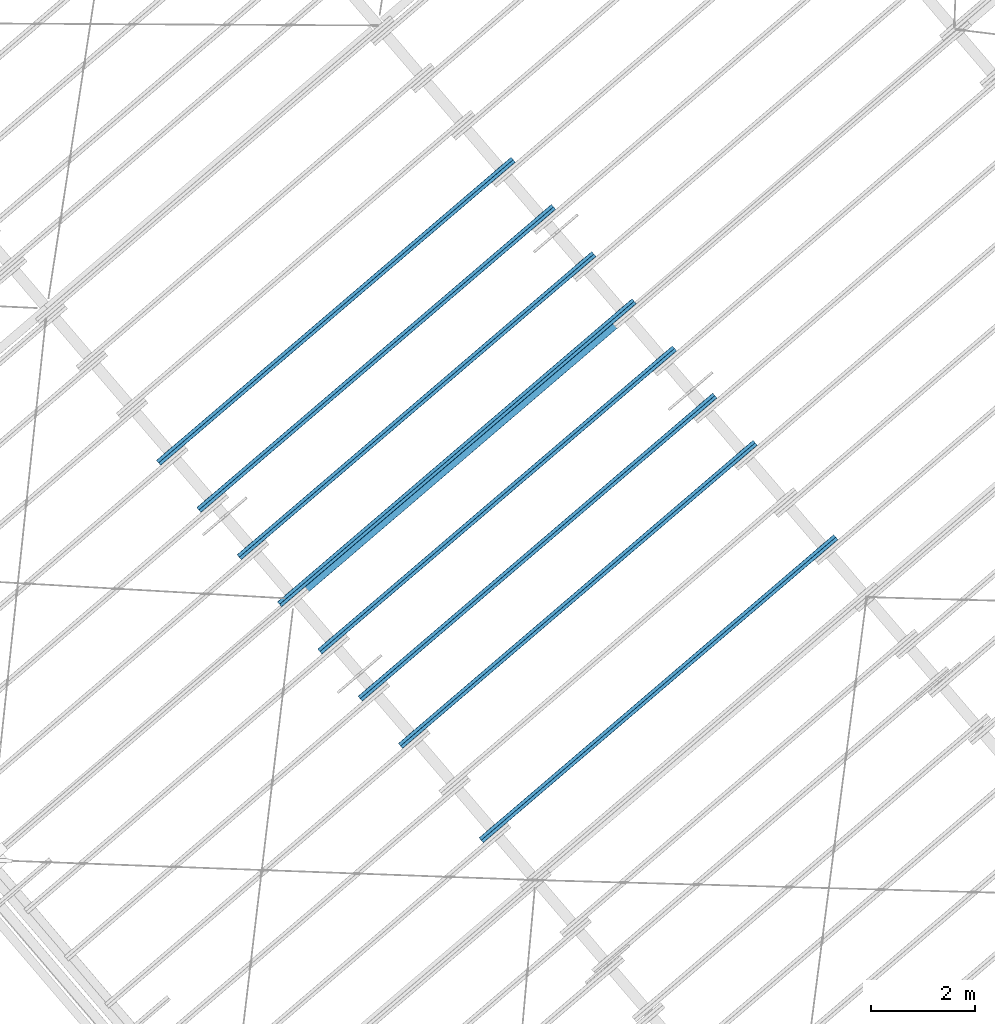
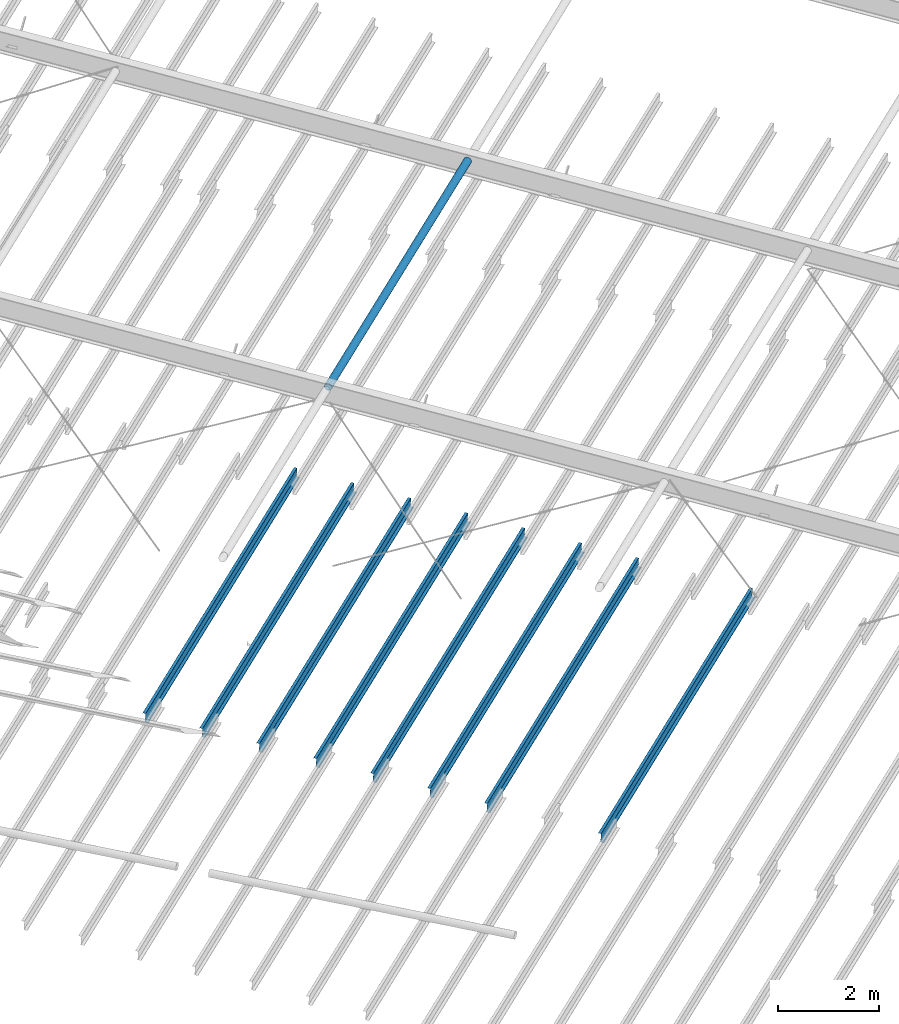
# One storey, part 11 of 25: 9 beams, 1 element without a shape of its own.
"""IFC2X3 building model written with IfcOpenShell, lengths in millimetres."""

from ifc_helpers import new_model, entity, si_unit, converted_unit, derived_unit, direction, frame, frame_2d, origin, origin_2d_with_axis, place, context, subcontext, project, spatial, polyline, circle_curve, parameter, trimmed, segment, composite_curve, hollow_circle, outline, extrude, material, type_object, element, aggregate, save


model = new_model("IFC2X3")

# Units and contexts
model_context = context("Model", 3, precision=0.01, world=origin(), true_north=direction((6.123031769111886e-17, 1.0)))
body_context = subcontext(model_context, "Body", "Model", "MODEL_VIEW")
ifc_project = project(units=[si_unit("LENGTHUNIT", "METRE", prefix="MILLI"), si_unit("AREAUNIT", "SQUARE_METRE"), si_unit("VOLUMEUNIT", "CUBIC_METRE"), converted_unit("PLANEANGLEUNIT", "DEGREE", entity("IfcRatioMeasure", 0.017453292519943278), si_unit("PLANEANGLEUNIT", "RADIAN"), dimensions=[0, 0, 0, 0, 0, 0, 0]), si_unit("MASSUNIT", "GRAM", prefix="KILO"), derived_unit("MASSDENSITYUNIT", [(si_unit("MASSUNIT", "GRAM", prefix="KILO"), 1), (si_unit("LENGTHUNIT", "METRE"), -3)]), derived_unit("MOMENTOFINERTIAUNIT", [(si_unit("LENGTHUNIT", "METRE"), 4)]), si_unit("TIMEUNIT", "SECOND"), si_unit("FREQUENCYUNIT", "HERTZ"), si_unit("THERMODYNAMICTEMPERATUREUNIT", "DEGREE_CELSIUS"), derived_unit("THERMALTRANSMITTANCEUNIT", [(si_unit("MASSUNIT", "GRAM", prefix="KILO"), 1), (si_unit("THERMODYNAMICTEMPERATUREUNIT", "KELVIN"), -1), (si_unit("TIMEUNIT", "SECOND"), -3)]), derived_unit("VOLUMETRICFLOWRATEUNIT", [(si_unit("LENGTHUNIT", "METRE"), 3), (si_unit("TIMEUNIT", "SECOND"), -1)]), derived_unit("MASSFLOWRATEUNIT", [(si_unit("MASSUNIT", "GRAM", prefix="KILO"), 1), (si_unit("TIMEUNIT", "SECOND"), -1)]), derived_unit("ROTATIONALFREQUENCYUNIT", [(si_unit("TIMEUNIT", "SECOND"), -1)]), si_unit("ELECTRICCURRENTUNIT", "AMPERE"), si_unit("ELECTRICVOLTAGEUNIT", "VOLT"), si_unit("POWERUNIT", "WATT"), si_unit("FORCEUNIT", "NEWTON", prefix="KILO"), si_unit("ILLUMINANCEUNIT", "LUX"), si_unit("LUMINOUSFLUXUNIT", "LUMEN"), si_unit("LUMINOUSINTENSITYUNIT", "CANDELA"), derived_unit("USERDEFINED", [(si_unit("MASSUNIT", "GRAM", prefix="KILO"), -1), (si_unit("LENGTHUNIT", "METRE"), -2), (si_unit("TIMEUNIT", "SECOND"), 3), (si_unit("LUMINOUSFLUXUNIT", "LUMEN"), 1)]), derived_unit("SOUNDPOWERUNIT", [(si_unit("MASSUNIT", "GRAM", prefix="KILO"), 1), (si_unit("LENGTHUNIT", "METRE"), 2), (si_unit("TIMEUNIT", "SECOND"), -3)]), derived_unit("LINEARVELOCITYUNIT", [(si_unit("LENGTHUNIT", "METRE"), 1), (si_unit("TIMEUNIT", "SECOND"), -1)]), si_unit("PRESSUREUNIT", "PASCAL"), derived_unit("USERDEFINED", [(si_unit("LENGTHUNIT", "METRE"), -2), (si_unit("MASSUNIT", "GRAM", prefix="KILO"), 1), (si_unit("TIMEUNIT", "SECOND"), -2)]), derived_unit("LINEARFORCEUNIT", [(si_unit("MASSUNIT", "GRAM", prefix="KILO"), 1), (si_unit("LENGTHUNIT", "METRE"), 1), (si_unit("TIMEUNIT", "SECOND"), -2), (si_unit("LENGTHUNIT", "METRE"), -1)]), derived_unit("PLANARFORCEUNIT", [(si_unit("MASSUNIT", "GRAM", prefix="KILO"), 1), (si_unit("LENGTHUNIT", "METRE"), 1), (si_unit("TIMEUNIT", "SECOND"), -2), (si_unit("LENGTHUNIT", "METRE"), -2)])], contexts=[model_context])

# Site, building, storey
site_placement = place(None, frame((962.4174930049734, -6014.433753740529, 0.0), z_axis=(0.0, 0.0, 1.0), x_axis=(0.7601792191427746, 0.649713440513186, 0.0)))
site = spatial("IfcSite", under=ifc_project, at=site_placement, Name="Default", CompositionType="ELEMENT")
building_placement = place(site_placement, origin())
building = spatial("IfcBuilding", under=site, at=building_placement, CompositionType="ELEMENT")
storey_placement = place(building_placement, frame((0.0, 0.0, 9200.0)))
storey = spatial("IfcBuildingStorey", under=building, at=storey_placement, Name="TOP OF CEILING", CompositionType="ELEMENT", Elevation=9200.000000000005)

# Beam
ifc_material_1 = material(Name="Metal - Steel - 300 MPa")
beam_type_1 = type_object("IfcBeamType", Name="ADSK_AU_CHS-Circular Hollow Sections (AS 1163_C350):168.3x6.4CHS", PredefinedType="NOTDEFINED")
beam_1_placement = place(storey_placement, frame((170718.36115848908, -11221.928082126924, 3047.4), z_axis=(-1.615773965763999e-06, 0.0, 1.0), x_axis=(-1.0, 0.0, -1.615773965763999e-06)))
element("IfcBeam", 1, at=beam_1_placement, inside=storey, type_object=beam_type_1, material=ifc_material_1, Name="ADSK_AU_CHS-Circular Hollow Sections (AS 1163_C350):168.3x6.4CHS", ObjectType="ADSK_AU_CHS-Circular Hollow Sections (AS 1163_C350):168.3x6.4CHS", context=body_context, shape_type="SweptSolid", body=[
    extrude(hollow_circle(Radius=84.15000000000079, WallThickness=6.4000000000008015, at=origin_2d_with_axis()), frame((-15.47869166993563, 0.0, -84.15000000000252), z_axis=(1.0, 0.0, 0.0), x_axis=(0.0, 1.0, 0.0)), (0.0, 0.0, 1.0), 8290.385096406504),
])

# Assembly, beams
assembly_placement = place(storey_placement, origin())
assembly = element("IfcElementAssembly", 2, at=assembly_placement, inside=storey, Name="Structural Beam System:Structural Beam System 1", ObjectType="Structural Beam System:Structural Beam System 1", AssemblyPlace="NOTDEFINED", PredefinedType="BEAM_GRID")
ifc_material_2 = material(Name="Metal - Steel - 345 MPa")
beam_type_2 = type_object("IfcBeamType", Name="ADSK_AU_Light Gauge-Zeds:Z20015", PredefinedType="NOTDEFINED")
beam_2_placement = place(building_placement, frame((171038.96020471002, -7529.671038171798, 3663.4824984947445), z_axis=(0.0, 0.0, 1.0), x_axis=(-1.0, 0.0, 0.0)))
beam_2 = element("IfcBeam", 3, at=beam_2_placement, type_object=beam_type_2, material=ifc_material_2, Name="ADSK_AU_Light Gauge-Zeds:Z20015", ObjectType="ADSK_AU_Light Gauge-Zeds:Z20015", context=body_context, shape_type="SweptSolid", body=[
    extrude(outline(composite_curve([segment(polyline([(100.0, 1.0), (100.0, -69.0)]), True, "CONTINUOUS"), segment(trimmed(circle_curve(frame_2d((98.0, -69.0), x_axis=(0.0, -1.0)), 2.000000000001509), [parameter(0.0)], [parameter(89.99999999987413)], True, "PARAMETER"), False, "CONTINUOUS"), segment(polyline([(98.0, -71.0), (81.49999999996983, -71.0)]), True, "CONTINUOUS"), segment(polyline([(81.49999999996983, -71.0), (81.49999999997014, -72.50000000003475)]), True, "CONTINUOUS"), segment(polyline([(81.49999999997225, -72.500000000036), (98.0, -72.50000000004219)]), True, "CONTINUOUS"), segment(trimmed(circle_curve(frame_2d((98.0, -69.0), x_axis=(1.0, 0.0)), 3.5000000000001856), [parameter(270.0000000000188)], [parameter(0.0)], True, "PARAMETER"), True, "CONTINUOUS"), segment(polyline([(101.49999999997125, -69.0), (101.50000000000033, 1.0)]), True, "CONTINUOUS"), segment(trimmed(circle_curve(frame_2d((98.0, 1.0), x_axis=(0.0, 1.0)), 3.5000000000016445), [parameter(269.9999999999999)], [parameter(0.0)], True, "PARAMETER"), True, "CONTINUOUS"), segment(polyline([(98.0, 4.499999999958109), (-98.0, 4.500000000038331)]), True, "CONTINUOUS"), segment(trimmed(circle_curve(frame_2d((-98.0, 6.500000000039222), x_axis=(-1.0, 0.0)), 2.000000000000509), [parameter(0.0)], [parameter(89.99999999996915)], True, "PARAMETER"), False, "CONTINUOUS"), segment(polyline([(-100.0, 6.500000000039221), (-100.0, 64.0)]), True, "CONTINUOUS"), segment(trimmed(circle_curve(frame_2d((-98.0, 64.0), x_axis=(0.0, 1.0)), 2.000000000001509), [parameter(0.0)], [parameter(89.99999999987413)], True, "PARAMETER"), False, "CONTINUOUS"), segment(polyline([(-98.0, 66.0), (-81.4999999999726, 66.0)]), True, "CONTINUOUS"), segment(polyline([(-81.4999999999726, 66.0), (-81.49999999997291, 67.50000000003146)]), True, "CONTINUOUS"), segment(polyline([(-81.49999999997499, 67.5000000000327), (-98.0, 67.50000000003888)]), True, "CONTINUOUS"), segment(trimmed(circle_curve(frame_2d((-98.0, 64.0), x_axis=(-1.0, 0.0)), 3.5000000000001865), [parameter(270.0000000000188)], [parameter(0.0)], True, "PARAMETER"), True, "CONTINUOUS"), segment(polyline([(-101.49999999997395, 64.0), (-101.49999999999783, 6.500000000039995)]), True, "CONTINUOUS"), segment(trimmed(circle_curve(frame_2d((-98.0, 6.500000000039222), x_axis=(0.0, -1.0)), 3.500000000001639), [parameter(269.9999999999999)], [parameter(0.0)], True, "PARAMETER"), True, "CONTINUOUS"), segment(polyline([(-98.0, 3.0), (98.0, 3.0)]), True, "CONTINUOUS"), segment(trimmed(circle_curve(frame_2d((98.0, 1.0), x_axis=(1.0, 0.0)), 2.000000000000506), [parameter(0.0)], [parameter(89.99999999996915)], True, "PARAMETER"), False, "CONTINUOUS")], self_intersect=False)), frame((0.20000000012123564, -2.5912438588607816, -101.56665523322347), z_axis=(-1.0, 0.0, 0.0), x_axis=(0.0, -0.06975647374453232, -0.9975640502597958)), (0.0, 0.0, -1.0), 9000.000000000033),
])
beam_3_placement = place(building_placement, frame((171038.96020471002, -8726.747898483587, 3579.7747300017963), z_axis=(0.0, 0.0, 1.0), x_axis=(-1.0, 0.0, 0.0)))
beam_3 = element("IfcBeam", 4, at=beam_3_placement, type_object=beam_type_2, material=ifc_material_2, Name="ADSK_AU_Light Gauge-Zeds:Z20015", ObjectType="ADSK_AU_Light Gauge-Zeds:Z20015", context=body_context, shape_type="SweptSolid", body=[
    extrude(outline(composite_curve([segment(polyline([(100.0, 1.0), (100.0, -69.0)]), True, "CONTINUOUS"), segment(trimmed(circle_curve(frame_2d((98.0, -69.0), x_axis=(0.0, -1.0)), 2.000000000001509), [parameter(0.0)], [parameter(89.99999999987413)], True, "PARAMETER"), False, "CONTINUOUS"), segment(polyline([(98.0, -71.0), (81.49999999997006, -71.0)]), True, "CONTINUOUS"), segment(polyline([(81.49999999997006, -71.0), (81.49999999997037, -72.50000000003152)]), True, "CONTINUOUS"), segment(polyline([(81.49999999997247, -72.50000000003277), (98.0, -72.50000000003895)]), True, "CONTINUOUS"), segment(trimmed(circle_curve(frame_2d((98.0, -69.0), x_axis=(1.0, 0.0)), 3.5000000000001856), [parameter(270.0000000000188)], [parameter(0.0)], True, "PARAMETER"), True, "CONTINUOUS"), segment(polyline([(101.49999999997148, -69.0), (101.50000000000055, 1.0)]), True, "CONTINUOUS"), segment(trimmed(circle_curve(frame_2d((98.0, 1.0), x_axis=(0.0, 1.0)), 3.5000000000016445), [parameter(269.9999999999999)], [parameter(0.0)], True, "PARAMETER"), True, "CONTINUOUS"), segment(polyline([(98.0, 4.499999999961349), (-98.0, 4.500000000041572)]), True, "CONTINUOUS"), segment(trimmed(circle_curve(frame_2d((-98.0, 6.500000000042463), x_axis=(-1.0, 0.0)), 2.000000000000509), [parameter(0.0)], [parameter(89.99999999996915)], True, "PARAMETER"), False, "CONTINUOUS"), segment(polyline([(-100.0, 6.500000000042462), (-100.0, 64.0)]), True, "CONTINUOUS"), segment(trimmed(circle_curve(frame_2d((-98.0, 64.0), x_axis=(0.0, 1.0)), 2.000000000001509), [parameter(0.0)], [parameter(89.99999999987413)], True, "PARAMETER"), False, "CONTINUOUS"), segment(polyline([(-98.0, 66.0), (-81.49999999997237, 66.0)]), True, "CONTINUOUS"), segment(polyline([(-81.49999999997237, 66.0), (-81.4999999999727, 67.5000000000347)]), True, "CONTINUOUS"), segment(polyline([(-81.49999999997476, 67.50000000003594), (-98.0, 67.50000000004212)]), True, "CONTINUOUS"), segment(trimmed(circle_curve(frame_2d((-98.0, 64.0), x_axis=(-1.0, 0.0)), 3.5000000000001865), [parameter(270.0000000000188)], [parameter(0.0)], True, "PARAMETER"), True, "CONTINUOUS"), segment(polyline([(-101.49999999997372, 64.0), (-101.4999999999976, 6.500000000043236)]), True, "CONTINUOUS"), segment(trimmed(circle_curve(frame_2d((-98.0, 6.500000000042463), x_axis=(0.0, -1.0)), 3.500000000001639), [parameter(269.9999999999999)], [parameter(0.0)], True, "PARAMETER"), True, "CONTINUOUS"), segment(polyline([(-98.0, 3.0), (98.0, 3.0)]), True, "CONTINUOUS"), segment(trimmed(circle_curve(frame_2d((98.0, 1.0), x_axis=(1.0, 0.0)), 2.000000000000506), [parameter(0.0)], [parameter(89.99999999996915)], True, "PARAMETER"), False, "CONTINUOUS")], self_intersect=False)), frame((0.20000000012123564, -2.5912438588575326, -101.56665523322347), z_axis=(-1.0, 0.0, 0.0), x_axis=(0.0, -0.06975647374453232, -0.9975640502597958)), (0.0, 0.0, -1.0), 9000.000000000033),
])
beam_4_placement = place(building_placement, frame((171038.96020471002, -9923.824758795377, 3496.0669615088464), z_axis=(0.0, 0.0, 1.0), x_axis=(-1.0, 0.0, 0.0)))
beam_4 = element("IfcBeam", 5, at=beam_4_placement, type_object=beam_type_2, material=ifc_material_2, Name="ADSK_AU_Light Gauge-Zeds:Z20015", ObjectType="ADSK_AU_Light Gauge-Zeds:Z20015", context=body_context, shape_type="SweptSolid", body=[
    extrude(outline(composite_curve([segment(polyline([(100.0, 1.0), (100.0, -69.0)]), True, "CONTINUOUS"), segment(trimmed(circle_curve(frame_2d((98.0, -69.0), x_axis=(0.0, -1.0)), 2.000000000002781), [parameter(0.0)], [parameter(89.99999999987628)], True, "PARAMETER"), False, "CONTINUOUS"), segment(polyline([(98.0, -71.0), (81.49999999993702, -71.0)]), True, "CONTINUOUS"), segment(polyline([(81.49999999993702, -71.0), (81.49999999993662, -72.50000000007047)]), True, "CONTINUOUS"), segment(polyline([(81.49999999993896, -72.50000000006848), (98.0, -72.5000000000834)]), True, "CONTINUOUS"), segment(trimmed(circle_curve(frame_2d((98.0, -69.0), x_axis=(1.0, 0.0)), 3.5000000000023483), [parameter(270.00000000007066)], [parameter(0.0)], True, "PARAMETER"), True, "CONTINUOUS"), segment(polyline([(101.49999999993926, -69.0), (101.50000000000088, 1.0)]), True, "CONTINUOUS"), segment(trimmed(circle_curve(frame_2d((98.0, 1.0), x_axis=(0.0, 1.0)), 3.500000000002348), [parameter(270.00000000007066)], [parameter(0.0)], True, "PARAMETER"), True, "CONTINUOUS"), segment(polyline([(98.0, 4.49999999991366), (-98.0, 4.500000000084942)]), True, "CONTINUOUS"), segment(trimmed(circle_curve(frame_2d((-98.0, 6.500000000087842), x_axis=(-1.0, 0.0)), 2.0000000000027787), [parameter(0.0)], [parameter(89.99999999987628)], True, "PARAMETER"), False, "CONTINUOUS"), segment(polyline([(-100.0, 6.500000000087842), (-100.0, 64.0)]), True, "CONTINUOUS"), segment(trimmed(circle_curve(frame_2d((-98.0, 64.0), x_axis=(0.0, 1.0)), 2.000000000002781), [parameter(0.0)], [parameter(89.99999999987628)], True, "PARAMETER"), False, "CONTINUOUS"), segment(polyline([(-98.0, 66.0), (-81.49999999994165, 66.0)]), True, "CONTINUOUS"), segment(polyline([(-81.4999999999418, 66.0), (-81.49999999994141, 67.5000000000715)]), True, "CONTINUOUS"), segment(polyline([(-81.49999999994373, 67.50000000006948), (-98.0, 67.50000000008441)]), True, "CONTINUOUS"), segment(trimmed(circle_curve(frame_2d((-98.0, 64.0), x_axis=(-1.0, 0.0)), 3.500000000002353), [parameter(270.00000000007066)], [parameter(0.0)], True, "PARAMETER"), True, "CONTINUOUS"), segment(polyline([(-101.49999999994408, 64.0), (-101.4999999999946, 6.500000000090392)]), True, "CONTINUOUS"), segment(trimmed(circle_curve(frame_2d((-98.0, 6.500000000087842), x_axis=(0.0, -1.0)), 3.5000000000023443), [parameter(270.00000000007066)], [parameter(0.0)], True, "PARAMETER"), True, "CONTINUOUS"), segment(polyline([(-98.0, 3.0), (98.0, 3.0)]), True, "CONTINUOUS"), segment(trimmed(circle_curve(frame_2d((98.0, 1.0), x_axis=(1.0, 0.0)), 2.000000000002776), [parameter(0.0)], [parameter(89.99999999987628)], True, "PARAMETER"), False, "CONTINUOUS")], self_intersect=False)), frame((0.20000000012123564, -2.5912438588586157, -101.56665523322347), z_axis=(-1.0, 0.0, 0.0), x_axis=(0.0, -0.06975647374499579, -0.9975640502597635)), (0.0, 0.0, -1.0), 9000.000000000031),
])
beam_5_placement = place(building_placement, frame((171038.96020471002, -11120.901619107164, 3412.3591930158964), z_axis=(0.0, 0.0, 1.0), x_axis=(-1.0, 0.0, 0.0)))
beam_5 = element("IfcBeam", 6, at=beam_5_placement, type_object=beam_type_2, material=ifc_material_2, Name="ADSK_AU_Light Gauge-Zeds:Z20015", ObjectType="ADSK_AU_Light Gauge-Zeds:Z20015", context=body_context, shape_type="SweptSolid", body=[
    extrude(outline(composite_curve([segment(polyline([(100.0, 1.0), (100.0, -69.0)]), True, "CONTINUOUS"), segment(trimmed(circle_curve(frame_2d((98.0, -69.0), x_axis=(0.0, -1.0)), 2.000000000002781), [parameter(0.0)], [parameter(89.99999999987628)], True, "PARAMETER"), False, "CONTINUOUS"), segment(polyline([(98.0, -71.0), (81.49999999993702, -71.0)]), True, "CONTINUOUS"), segment(polyline([(81.49999999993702, -71.0), (81.49999999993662, -72.50000000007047)]), True, "CONTINUOUS"), segment(polyline([(81.49999999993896, -72.50000000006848), (98.0, -72.5000000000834)]), True, "CONTINUOUS"), segment(trimmed(circle_curve(frame_2d((98.0, -69.0), x_axis=(1.0, 0.0)), 3.5000000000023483), [parameter(270.00000000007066)], [parameter(0.0)], True, "PARAMETER"), True, "CONTINUOUS"), segment(polyline([(101.49999999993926, -69.0), (101.50000000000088, 1.0)]), True, "CONTINUOUS"), segment(trimmed(circle_curve(frame_2d((98.0, 1.0), x_axis=(0.0, 1.0)), 3.500000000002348), [parameter(270.00000000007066)], [parameter(0.0)], True, "PARAMETER"), True, "CONTINUOUS"), segment(polyline([(98.0, 4.49999999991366), (-98.0, 4.500000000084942)]), True, "CONTINUOUS"), segment(trimmed(circle_curve(frame_2d((-98.0, 6.500000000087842), x_axis=(-1.0, 0.0)), 2.0000000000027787), [parameter(0.0)], [parameter(89.99999999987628)], True, "PARAMETER"), False, "CONTINUOUS"), segment(polyline([(-100.0, 6.500000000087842), (-100.0, 64.0)]), True, "CONTINUOUS"), segment(trimmed(circle_curve(frame_2d((-98.0, 64.0), x_axis=(0.0, 1.0)), 2.000000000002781), [parameter(0.0)], [parameter(89.99999999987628)], True, "PARAMETER"), False, "CONTINUOUS"), segment(polyline([(-98.0, 66.0), (-81.49999999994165, 66.0)]), True, "CONTINUOUS"), segment(polyline([(-81.4999999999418, 66.0), (-81.49999999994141, 67.5000000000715)]), True, "CONTINUOUS"), segment(polyline([(-81.49999999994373, 67.50000000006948), (-98.0, 67.50000000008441)]), True, "CONTINUOUS"), segment(trimmed(circle_curve(frame_2d((-98.0, 64.0), x_axis=(-1.0, 0.0)), 3.500000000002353), [parameter(270.00000000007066)], [parameter(0.0)], True, "PARAMETER"), True, "CONTINUOUS"), segment(polyline([(-101.49999999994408, 64.0), (-101.4999999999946, 6.500000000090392)]), True, "CONTINUOUS"), segment(trimmed(circle_curve(frame_2d((-98.0, 6.500000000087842), x_axis=(0.0, -1.0)), 3.5000000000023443), [parameter(270.00000000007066)], [parameter(0.0)], True, "PARAMETER"), True, "CONTINUOUS"), segment(polyline([(-98.0, 3.0), (98.0, 3.0)]), True, "CONTINUOUS"), segment(trimmed(circle_curve(frame_2d((98.0, 1.0), x_axis=(1.0, 0.0)), 2.000000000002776), [parameter(0.0)], [parameter(89.99999999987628)], True, "PARAMETER"), False, "CONTINUOUS")], self_intersect=False)), frame((0.20000000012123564, -2.5912438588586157, -101.56665523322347), z_axis=(-1.0, 0.0, 0.0), x_axis=(0.0, -0.06975647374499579, -0.9975640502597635)), (0.0, 0.0, -1.0), 9000.000000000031),
])
beam_6_placement = place(building_placement, frame((171038.96020471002, -12317.978479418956, 3328.6514245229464), z_axis=(0.0, 0.0, 1.0), x_axis=(-1.0, 0.0, 0.0)))
beam_6 = element("IfcBeam", 7, at=beam_6_placement, type_object=beam_type_2, material=ifc_material_2, Name="ADSK_AU_Light Gauge-Zeds:Z20015", ObjectType="ADSK_AU_Light Gauge-Zeds:Z20015", context=body_context, shape_type="SweptSolid", body=[
    extrude(outline(composite_curve([segment(polyline([(100.0, 1.0), (100.0, -69.0)]), True, "CONTINUOUS"), segment(trimmed(circle_curve(frame_2d((98.0, -69.0), x_axis=(0.0, -1.0)), 2.000000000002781), [parameter(0.0)], [parameter(89.99999999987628)], True, "PARAMETER"), False, "CONTINUOUS"), segment(polyline([(98.0, -71.0), (81.49999999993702, -71.0)]), True, "CONTINUOUS"), segment(polyline([(81.49999999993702, -71.0), (81.49999999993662, -72.50000000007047)]), True, "CONTINUOUS"), segment(polyline([(81.49999999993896, -72.50000000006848), (98.0, -72.5000000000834)]), True, "CONTINUOUS"), segment(trimmed(circle_curve(frame_2d((98.0, -69.0), x_axis=(1.0, 0.0)), 3.5000000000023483), [parameter(270.00000000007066)], [parameter(0.0)], True, "PARAMETER"), True, "CONTINUOUS"), segment(polyline([(101.49999999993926, -69.0), (101.50000000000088, 1.0)]), True, "CONTINUOUS"), segment(trimmed(circle_curve(frame_2d((98.0, 1.0), x_axis=(0.0, 1.0)), 3.500000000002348), [parameter(270.00000000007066)], [parameter(0.0)], True, "PARAMETER"), True, "CONTINUOUS"), segment(polyline([(98.0, 4.49999999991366), (-98.0, 4.500000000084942)]), True, "CONTINUOUS"), segment(trimmed(circle_curve(frame_2d((-98.0, 6.500000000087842), x_axis=(-1.0, 0.0)), 2.0000000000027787), [parameter(0.0)], [parameter(89.99999999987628)], True, "PARAMETER"), False, "CONTINUOUS"), segment(polyline([(-100.0, 6.500000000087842), (-100.0, 64.0)]), True, "CONTINUOUS"), segment(trimmed(circle_curve(frame_2d((-98.0, 64.0), x_axis=(0.0, 1.0)), 2.000000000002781), [parameter(0.0)], [parameter(89.99999999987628)], True, "PARAMETER"), False, "CONTINUOUS"), segment(polyline([(-98.0, 66.0), (-81.49999999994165, 66.0)]), True, "CONTINUOUS"), segment(polyline([(-81.4999999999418, 66.0), (-81.49999999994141, 67.5000000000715)]), True, "CONTINUOUS"), segment(polyline([(-81.49999999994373, 67.50000000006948), (-98.0, 67.50000000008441)]), True, "CONTINUOUS"), segment(trimmed(circle_curve(frame_2d((-98.0, 64.0), x_axis=(-1.0, 0.0)), 3.500000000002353), [parameter(270.00000000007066)], [parameter(0.0)], True, "PARAMETER"), True, "CONTINUOUS"), segment(polyline([(-101.49999999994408, 64.0), (-101.4999999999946, 6.500000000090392)]), True, "CONTINUOUS"), segment(trimmed(circle_curve(frame_2d((-98.0, 6.500000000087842), x_axis=(0.0, -1.0)), 3.5000000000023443), [parameter(270.00000000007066)], [parameter(0.0)], True, "PARAMETER"), True, "CONTINUOUS"), segment(polyline([(-98.0, 3.0), (98.0, 3.0)]), True, "CONTINUOUS"), segment(trimmed(circle_curve(frame_2d((98.0, 1.0), x_axis=(1.0, 0.0)), 2.000000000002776), [parameter(0.0)], [parameter(89.99999999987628)], True, "PARAMETER"), False, "CONTINUOUS")], self_intersect=False)), frame((0.20000000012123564, -2.5912438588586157, -101.56665523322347), z_axis=(-1.0, 0.0, 0.0), x_axis=(0.0, -0.06975647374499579, -0.9975640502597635)), (0.0, 0.0, -1.0), 9000.000000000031),
])
beam_7_placement = place(building_placement, frame((171038.96020471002, -13515.055339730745, 3244.9436560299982), z_axis=(0.0, 0.0, 1.0), x_axis=(-1.0, 0.0, 0.0)))
beam_7 = element("IfcBeam", 8, at=beam_7_placement, type_object=beam_type_2, material=ifc_material_2, Name="ADSK_AU_Light Gauge-Zeds:Z20015", ObjectType="ADSK_AU_Light Gauge-Zeds:Z20015", context=body_context, shape_type="SweptSolid", body=[
    extrude(outline(composite_curve([segment(polyline([(100.0, 1.0), (100.0, -69.0)]), True, "CONTINUOUS"), segment(trimmed(circle_curve(frame_2d((98.0, -69.0), x_axis=(0.0, -1.0)), 2.000000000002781), [parameter(0.0)], [parameter(89.99999999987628)], True, "PARAMETER"), False, "CONTINUOUS"), segment(polyline([(98.0, -71.0), (81.49999999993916, -71.0)]), True, "CONTINUOUS"), segment(polyline([(81.49999999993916, -71.0), (81.49999999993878, -72.50000000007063)]), True, "CONTINUOUS"), segment(polyline([(81.49999999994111, -72.50000000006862), (98.0, -72.50000000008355)]), True, "CONTINUOUS"), segment(trimmed(circle_curve(frame_2d((98.0, -69.0), x_axis=(1.0, 0.0)), 3.5000000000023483), [parameter(270.00000000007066)], [parameter(0.0)], True, "PARAMETER"), True, "CONTINUOUS"), segment(polyline([(101.49999999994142, -69.0), (101.50000000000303, 1.0)]), True, "CONTINUOUS"), segment(trimmed(circle_curve(frame_2d((98.0, 1.0), x_axis=(0.0, 1.0)), 3.500000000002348), [parameter(270.00000000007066)], [parameter(0.0)], True, "PARAMETER"), True, "CONTINUOUS"), segment(polyline([(98.0, 4.499999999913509), (-98.0, 4.500000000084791)]), True, "CONTINUOUS"), segment(trimmed(circle_curve(frame_2d((-98.0, 6.500000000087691), x_axis=(-1.0, 0.0)), 2.0000000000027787), [parameter(0.0)], [parameter(89.99999999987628)], True, "PARAMETER"), False, "CONTINUOUS"), segment(polyline([(-100.0, 6.500000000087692), (-100.0, 64.0)]), True, "CONTINUOUS"), segment(trimmed(circle_curve(frame_2d((-98.0, 64.0), x_axis=(0.0, 1.0)), 2.000000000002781), [parameter(0.0)], [parameter(89.99999999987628)], True, "PARAMETER"), False, "CONTINUOUS"), segment(polyline([(-98.0, 66.0), (-81.49999999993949, 66.0)]), True, "CONTINUOUS"), segment(polyline([(-81.49999999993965, 66.0), (-81.49999999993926, 67.50000000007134)]), True, "CONTINUOUS"), segment(polyline([(-81.49999999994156, 67.50000000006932), (-98.0, 67.50000000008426)]), True, "CONTINUOUS"), segment(trimmed(circle_curve(frame_2d((-98.0, 64.0), x_axis=(-1.0, 0.0)), 3.500000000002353), [parameter(270.00000000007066)], [parameter(0.0)], True, "PARAMETER"), True, "CONTINUOUS"), segment(polyline([(-101.49999999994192, 64.0), (-101.49999999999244, 6.500000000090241)]), True, "CONTINUOUS"), segment(trimmed(circle_curve(frame_2d((-98.0, 6.500000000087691), x_axis=(0.0, -1.0)), 3.5000000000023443), [parameter(270.00000000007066)], [parameter(0.0)], True, "PARAMETER"), True, "CONTINUOUS"), segment(polyline([(-98.0, 3.0), (98.0, 3.0)]), True, "CONTINUOUS"), segment(trimmed(circle_curve(frame_2d((98.0, 1.0), x_axis=(1.0, 0.0)), 2.000000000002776), [parameter(0.0)], [parameter(89.99999999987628)], True, "PARAMETER"), False, "CONTINUOUS")], self_intersect=False)), frame((0.20000000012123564, -2.5912438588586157, -101.56665523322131), z_axis=(-1.0, 0.0, 0.0), x_axis=(0.0, -0.06975647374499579, -0.9975640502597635)), (0.0, 0.0, -1.0), 9000.000000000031),
])
beam_8_placement = place(building_placement, frame((171038.96020471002, -14712.132200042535, 3161.2358875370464), z_axis=(0.0, 0.0, 1.0), x_axis=(-1.0, 0.0, 0.0)))
beam_8 = element("IfcBeam", 9, at=beam_8_placement, type_object=beam_type_2, material=ifc_material_2, Name="ADSK_AU_Light Gauge-Zeds:Z20015", ObjectType="ADSK_AU_Light Gauge-Zeds:Z20015", context=body_context, shape_type="SweptSolid", body=[
    extrude(outline(composite_curve([segment(polyline([(100.0, 1.0), (100.0, -69.0)]), True, "CONTINUOUS"), segment(trimmed(circle_curve(frame_2d((98.0, -69.0), x_axis=(0.0, -1.0)), 2.000000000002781), [parameter(0.0)], [parameter(89.99999999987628)], True, "PARAMETER"), False, "CONTINUOUS"), segment(polyline([(98.0, -71.0), (81.49999999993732, -71.0)]), True, "CONTINUOUS"), segment(polyline([(81.49999999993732, -71.0), (81.49999999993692, -72.50000000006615)]), True, "CONTINUOUS"), segment(polyline([(81.49999999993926, -72.50000000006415), (98.0, -72.50000000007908)]), True, "CONTINUOUS"), segment(trimmed(circle_curve(frame_2d((98.0, -69.0), x_axis=(1.0, 0.0)), 3.5000000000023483), [parameter(270.00000000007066)], [parameter(0.0)], True, "PARAMETER"), True, "CONTINUOUS"), segment(polyline([(101.49999999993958, -69.0), (101.50000000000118, 1.0)]), True, "CONTINUOUS"), segment(trimmed(circle_curve(frame_2d((98.0, 1.0), x_axis=(0.0, 1.0)), 3.500000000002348), [parameter(270.00000000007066)], [parameter(0.0)], True, "PARAMETER"), True, "CONTINUOUS"), segment(polyline([(98.0, 4.499999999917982), (-98.0, 4.500000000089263)]), True, "CONTINUOUS"), segment(trimmed(circle_curve(frame_2d((-98.0, 6.500000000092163), x_axis=(-1.0, 0.0)), 2.0000000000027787), [parameter(0.0)], [parameter(89.99999999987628)], True, "PARAMETER"), False, "CONTINUOUS"), segment(polyline([(-100.0, 6.500000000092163), (-100.0, 64.0)]), True, "CONTINUOUS"), segment(trimmed(circle_curve(frame_2d((-98.0, 64.0), x_axis=(0.0, 1.0)), 2.000000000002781), [parameter(0.0)], [parameter(89.99999999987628)], True, "PARAMETER"), False, "CONTINUOUS"), segment(polyline([(-98.0, 66.0), (-81.49999999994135, 66.0)]), True, "CONTINUOUS"), segment(polyline([(-81.49999999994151, 66.0), (-81.49999999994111, 67.50000000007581)]), True, "CONTINUOUS"), segment(polyline([(-81.49999999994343, 67.50000000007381), (-98.0, 67.50000000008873)]), True, "CONTINUOUS"), segment(trimmed(circle_curve(frame_2d((-98.0, 64.0), x_axis=(-1.0, 0.0)), 3.500000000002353), [parameter(270.00000000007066)], [parameter(0.0)], True, "PARAMETER"), True, "CONTINUOUS"), segment(polyline([(-101.49999999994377, 64.0), (-101.49999999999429, 6.500000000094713)]), True, "CONTINUOUS"), segment(trimmed(circle_curve(frame_2d((-98.0, 6.500000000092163), x_axis=(0.0, -1.0)), 3.5000000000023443), [parameter(270.00000000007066)], [parameter(0.0)], True, "PARAMETER"), True, "CONTINUOUS"), segment(polyline([(-98.0, 3.0), (98.0, 3.0)]), True, "CONTINUOUS"), segment(trimmed(circle_curve(frame_2d((98.0, 1.0), x_axis=(1.0, 0.0)), 2.000000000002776), [parameter(0.0)], [parameter(89.99999999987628)], True, "PARAMETER"), False, "CONTINUOUS")], self_intersect=False)), frame((0.20000000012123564, -2.591243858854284, -101.56665523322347), z_axis=(-1.0, 0.0, 0.0), x_axis=(0.0, -0.06975647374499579, -0.9975640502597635)), (0.0, 0.0, -1.0), 9000.000000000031),
])
beam_9_placement = place(building_placement, frame((171038.96020471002, -17106.285920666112, 2993.8203505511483), z_axis=(0.0, 0.0, 1.0), x_axis=(-1.0, 0.0, 0.0)))
beam_9 = element("IfcBeam", 10, at=beam_9_placement, type_object=beam_type_2, material=ifc_material_2, Name="ADSK_AU_Light Gauge-Zeds:Z20015", ObjectType="ADSK_AU_Light Gauge-Zeds:Z20015", context=body_context, shape_type="SweptSolid", body=[
    extrude(outline(composite_curve([segment(polyline([(100.0, 1.0), (100.0, -69.0)]), True, "CONTINUOUS"), segment(trimmed(circle_curve(frame_2d((98.0, -69.0), x_axis=(0.0, -1.0)), 2.000000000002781), [parameter(0.0)], [parameter(89.99999999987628)], True, "PARAMETER"), False, "CONTINUOUS"), segment(polyline([(98.0, -71.0), (81.49999999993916, -71.0)]), True, "CONTINUOUS"), segment(polyline([(81.49999999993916, -71.0), (81.49999999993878, -72.50000000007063)]), True, "CONTINUOUS"), segment(polyline([(81.49999999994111, -72.50000000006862), (98.0, -72.50000000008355)]), True, "CONTINUOUS"), segment(trimmed(circle_curve(frame_2d((98.0, -69.0), x_axis=(1.0, 0.0)), 3.5000000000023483), [parameter(270.00000000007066)], [parameter(0.0)], True, "PARAMETER"), True, "CONTINUOUS"), segment(polyline([(101.49999999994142, -69.0), (101.50000000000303, 1.0)]), True, "CONTINUOUS"), segment(trimmed(circle_curve(frame_2d((98.0, 1.0), x_axis=(0.0, 1.0)), 3.500000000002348), [parameter(270.00000000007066)], [parameter(0.0)], True, "PARAMETER"), True, "CONTINUOUS"), segment(polyline([(98.0, 4.499999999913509), (-98.0, 4.500000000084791)]), True, "CONTINUOUS"), segment(trimmed(circle_curve(frame_2d((-98.0, 6.500000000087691), x_axis=(-1.0, 0.0)), 2.0000000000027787), [parameter(0.0)], [parameter(89.99999999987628)], True, "PARAMETER"), False, "CONTINUOUS"), segment(polyline([(-100.0, 6.500000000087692), (-100.0, 64.0)]), True, "CONTINUOUS"), segment(trimmed(circle_curve(frame_2d((-98.0, 64.0), x_axis=(0.0, 1.0)), 2.000000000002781), [parameter(0.0)], [parameter(89.99999999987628)], True, "PARAMETER"), False, "CONTINUOUS"), segment(polyline([(-98.0, 66.0), (-81.49999999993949, 66.0)]), True, "CONTINUOUS"), segment(polyline([(-81.49999999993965, 66.0), (-81.49999999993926, 67.50000000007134)]), True, "CONTINUOUS"), segment(polyline([(-81.49999999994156, 67.50000000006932), (-98.0, 67.50000000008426)]), True, "CONTINUOUS"), segment(trimmed(circle_curve(frame_2d((-98.0, 64.0), x_axis=(-1.0, 0.0)), 3.500000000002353), [parameter(270.00000000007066)], [parameter(0.0)], True, "PARAMETER"), True, "CONTINUOUS"), segment(polyline([(-101.49999999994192, 64.0), (-101.49999999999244, 6.500000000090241)]), True, "CONTINUOUS"), segment(trimmed(circle_curve(frame_2d((-98.0, 6.500000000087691), x_axis=(0.0, -1.0)), 3.5000000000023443), [parameter(270.00000000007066)], [parameter(0.0)], True, "PARAMETER"), True, "CONTINUOUS"), segment(polyline([(-98.0, 3.0), (98.0, 3.0)]), True, "CONTINUOUS"), segment(trimmed(circle_curve(frame_2d((98.0, 1.0), x_axis=(1.0, 0.0)), 2.000000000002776), [parameter(0.0)], [parameter(89.99999999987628)], True, "PARAMETER"), False, "CONTINUOUS")], self_intersect=False)), frame((0.20000000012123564, -2.5912438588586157, -101.56665523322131), z_axis=(-1.0, 0.0, 0.0), x_axis=(0.0, -0.06975647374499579, -0.9975640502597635)), (0.0, 0.0, -1.0), 9000.000000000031),
])
aggregate(assembly, [beam_2, beam_3, beam_4, beam_5, beam_6, beam_7, beam_8, beam_9])

save(model, "model.ifc")
